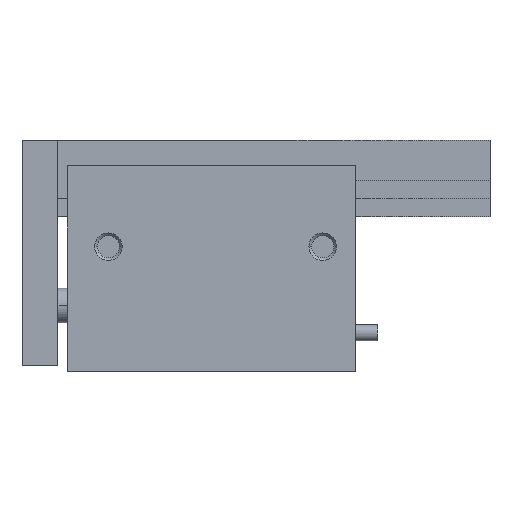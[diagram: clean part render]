
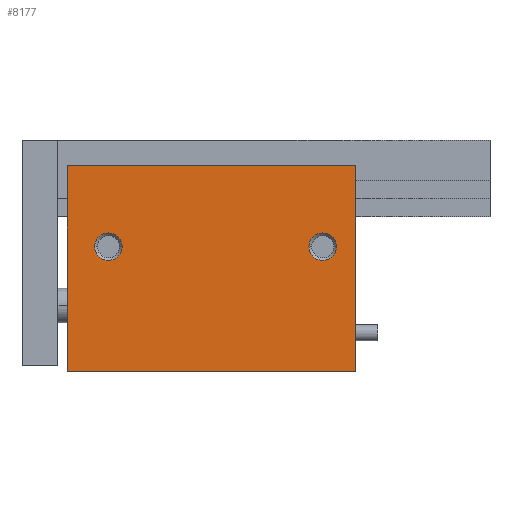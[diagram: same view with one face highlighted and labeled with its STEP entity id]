
A CAD part, top view. The second image highlights one B-rep face of the part: STEP entity #8177.
In plain terms, the highlighted planar face has unit normal (0, 0, 1) as drawn and (0, 0, -1) by its records, which use the part's own axes.
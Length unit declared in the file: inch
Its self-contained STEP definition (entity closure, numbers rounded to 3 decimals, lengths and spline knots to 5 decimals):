
#40 = DIRECTION ( 'NONE',  ( 0., 0., 1. ) ) ;
#54 = LINE ( 'NONE', #3923, #1697 ) ;
#362 = AXIS2_PLACEMENT_3D ( 'NONE', #4233, #40, #4941 ) ;
#551 = DIRECTION ( 'NONE',  ( 1., 0., 0. ) ) ;
#650 = EDGE_LOOP ( 'NONE', ( #4653, #3585 ) ) ;
#797 = CARTESIAN_POINT ( 'NONE',  ( 1.6175, 0.153, -0.531 ) ) ;
#974 = CIRCLE ( 'NONE', #6030, 0.095 ) ;
#1126 = DIRECTION ( 'NONE',  ( -1., 0., 0. ) ) ;
#1448 = VERTEX_POINT ( 'NONE', #5085 ) ;
#1499 = VERTEX_POINT ( 'NONE', #8647 ) ;
#1685 = FACE_BOUND ( 'NONE', #650, .T. ) ;
#1697 = VECTOR ( 'NONE', #1126, 39.37008 ) ;
#1895 = DIRECTION ( 'NONE',  ( 0., 1., 0. ) ) ;
#1920 = CARTESIAN_POINT ( 'NONE',  ( 2., 0.715, -0.531 ) ) ;
#2142 = CARTESIAN_POINT ( 'NONE',  ( 2., -0.715, -0.531 ) ) ;
#2164 = CARTESIAN_POINT ( 'NONE',  ( 0.225, 0.153, -0.531 ) ) ;
#2192 = CARTESIAN_POINT ( 'NONE',  ( 2., 0.715, -0.531 ) ) ;
#2325 = CIRCLE ( 'NONE', #2387, 0.095 ) ;
#2387 = AXIS2_PLACEMENT_3D ( 'NONE', #7340, #3153, #8042 ) ;
#2705 = AXIS2_PLACEMENT_3D ( 'NONE', #6479, #7183, #2986 ) ;
#2874 = DIRECTION ( 'NONE',  ( 1., 0., 0. ) ) ;
#2986 = DIRECTION ( 'NONE',  ( 1., 0., 0. ) ) ;
#3153 = DIRECTION ( 'NONE',  ( 0., 0., 1. ) ) ;
#3200 = ORIENTED_EDGE ( 'NONE', *, *, #4528, .F. ) ;
#3326 = CIRCLE ( 'NONE', #362, 0.095 ) ;
#3342 = FACE_BOUND ( 'NONE', #3368, .T. ) ;
#3368 = EDGE_LOOP ( 'NONE', ( #7002, #4145 ) ) ;
#3372 = VECTOR ( 'NONE', #1895, 39.37008 ) ;
#3539 = EDGE_CURVE ( 'NONE', #1448, #1499, #3326, .T. ) ;
#3585 = ORIENTED_EDGE ( 'NONE', *, *, #8516, .T. ) ;
#3706 = VERTEX_POINT ( 'NONE', #6478 ) ;
#3895 = EDGE_CURVE ( 'NONE', #7895, #5842, #2325, .T. ) ;
#3923 = CARTESIAN_POINT ( 'NONE',  ( 2., -0.715, -0.531 ) ) ;
#4145 = ORIENTED_EDGE ( 'NONE', *, *, #5453, .T. ) ;
#4233 = CARTESIAN_POINT ( 'NONE',  ( 0.225, 0.153, -0.531 ) ) ;
#4324 = VERTEX_POINT ( 'NONE', #7809 ) ;
#4386 = EDGE_LOOP ( 'NONE', ( #7602, #8677, #3200, #8930 ) ) ;
#4528 = EDGE_CURVE ( 'NONE', #3706, #4795, #5162, .T. ) ;
#4653 = ORIENTED_EDGE ( 'NONE', *, *, #3895, .T. ) ;
#4700 = CARTESIAN_POINT ( 'NONE',  ( 0., -0.715, -0.531 ) ) ;
#4757 = DIRECTION ( 'NONE',  ( 0., 0., 1. ) ) ;
#4795 = VERTEX_POINT ( 'NONE', #1920 ) ;
#4874 = AXIS2_PLACEMENT_3D ( 'NONE', #8952, #4757, #551 ) ;
#4941 = DIRECTION ( 'NONE',  ( 1., 0., 0. ) ) ;
#5043 = EDGE_CURVE ( 'NONE', #4795, #6663, #5679, .T. ) ;
#5085 = CARTESIAN_POINT ( 'NONE',  ( 0.13, 0.153, -0.531 ) ) ;
#5162 = LINE ( 'NONE', #2142, #6597 ) ;
#5221 = LINE ( 'NONE', #4700, #3372 ) ;
#5263 = CARTESIAN_POINT ( 'NONE',  ( 0., 0.715, -0.531 ) ) ;
#5453 = EDGE_CURVE ( 'NONE', #1499, #1448, #974, .T. ) ;
#5679 = LINE ( 'NONE', #2192, #7551 ) ;
#5740 = PLANE ( 'NONE',  #2705 ) ;
#5842 = VERTEX_POINT ( 'NONE', #6025 ) ;
#6025 = CARTESIAN_POINT ( 'NONE',  ( 1.8075, 0.153, -0.531 ) ) ;
#6030 = AXIS2_PLACEMENT_3D ( 'NONE', #2164, #7065, #2874 ) ;
#6402 = DIRECTION ( 'NONE',  ( -1., 0., 0. ) ) ;
#6478 = CARTESIAN_POINT ( 'NONE',  ( 2., -0.715, -0.531 ) ) ;
#6479 = CARTESIAN_POINT ( 'NONE',  ( 2., -0.715, -0.531 ) ) ;
#6597 = VECTOR ( 'NONE', #7780, 39.37008 ) ;
#6663 = VERTEX_POINT ( 'NONE', #5263 ) ;
#6841 = FACE_OUTER_BOUND ( 'NONE', #4386, .T. ) ;
#7002 = ORIENTED_EDGE ( 'NONE', *, *, #3539, .T. ) ;
#7065 = DIRECTION ( 'NONE',  ( 0., 0., 1. ) ) ;
#7183 = DIRECTION ( 'NONE',  ( 0., 0., 1. ) ) ;
#7340 = CARTESIAN_POINT ( 'NONE',  ( 1.7125, 0.153, -0.531 ) ) ;
#7551 = VECTOR ( 'NONE', #6402, 39.37008 ) ;
#7574 = EDGE_CURVE ( 'NONE', #3706, #4324, #54, .T. ) ;
#7602 = ORIENTED_EDGE ( 'NONE', *, *, #8457, .T. ) ;
#7780 = DIRECTION ( 'NONE',  ( 0., 1., 0. ) ) ;
#7809 = CARTESIAN_POINT ( 'NONE',  ( 0., -0.715, -0.531 ) ) ;
#7895 = VERTEX_POINT ( 'NONE', #797 ) ;
#8042 = DIRECTION ( 'NONE',  ( 1., 0., 0. ) ) ;
#8177 = ADVANCED_FACE ( 'NONE', ( #3342, #6841, #1685 ), #5740, .F. ) ;
#8457 = EDGE_CURVE ( 'NONE', #4324, #6663, #5221, .T. ) ;
#8516 = EDGE_CURVE ( 'NONE', #5842, #7895, #8732, .T. ) ;
#8647 = CARTESIAN_POINT ( 'NONE',  ( 0.32, 0.153, -0.531 ) ) ;
#8677 = ORIENTED_EDGE ( 'NONE', *, *, #5043, .F. ) ;
#8732 = CIRCLE ( 'NONE', #4874, 0.095 ) ;
#8930 = ORIENTED_EDGE ( 'NONE', *, *, #7574, .T. ) ;
#8952 = CARTESIAN_POINT ( 'NONE',  ( 1.7125, 0.153, -0.531 ) ) ;
